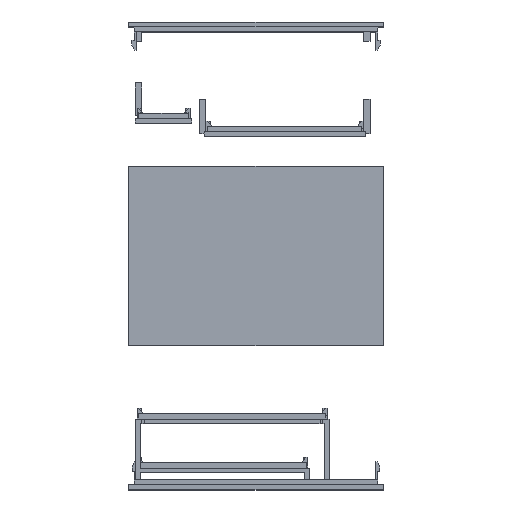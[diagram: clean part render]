
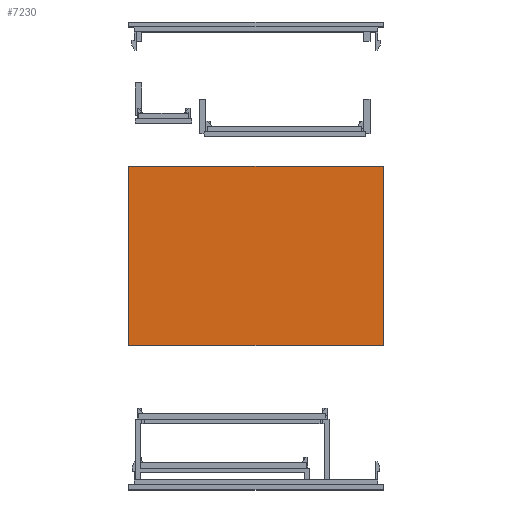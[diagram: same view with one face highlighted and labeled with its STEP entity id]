
A CAD part, top view. The second image highlights one B-rep face of the part: STEP entity #7230.
In plain terms, the highlighted planar face has unit normal (0, 0, 1).
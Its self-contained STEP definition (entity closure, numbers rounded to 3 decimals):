
#5539 = VERTEX_POINT('',#5540);
#5540 = CARTESIAN_POINT('',(0.,3.,100.));
#5547 = PLANE('',#5548);
#5548 = AXIS2_PLACEMENT_3D('',#5549,#5550,#5551);
#5549 = CARTESIAN_POINT('',(0.,3.,0.));
#5550 = DIRECTION('',(1.,0.,0.));
#5551 = DIRECTION('',(0.,0.,1.));
#5559 = PLANE('',#5560);
#5560 = AXIS2_PLACEMENT_3D('',#5561,#5562,#5563);
#5561 = CARTESIAN_POINT('',(0.,3.,0.));
#5562 = DIRECTION('',(0.,1.,0.));
#5563 = DIRECTION('',(0.,0.,1.));
#5600 = VERTEX_POINT('',#5601);
#5601 = CARTESIAN_POINT('',(0.,112.,100.));
#5615 = PLANE('',#5616);
#5616 = AXIS2_PLACEMENT_3D('',#5617,#5618,#5619);
#5617 = CARTESIAN_POINT('',(0.,112.,0.));
#5618 = DIRECTION('',(0.,1.,0.));
#5619 = DIRECTION('',(0.,0.,1.));
#5627 = EDGE_CURVE('',#5539,#5600,#5628,.T.);
#5628 = SURFACE_CURVE('',#5629,(#5633,#5640),.PCURVE_S1.);
#5629 = LINE('',#5630,#5631);
#5630 = CARTESIAN_POINT('',(0.,3.,100.));
#5631 = VECTOR('',#5632,1.);
#5632 = DIRECTION('',(0.,1.,0.));
#5633 = PCURVE('',#5547,#5634);
#5634 = DEFINITIONAL_REPRESENTATION('',(#5635),#5639);
#5635 = LINE('',#5636,#5637);
#5636 = CARTESIAN_POINT('',(100.,0.));
#5637 = VECTOR('',#5638,1.);
#5638 = DIRECTION('',(0.,-1.));
#5639 = ( GEOMETRIC_REPRESENTATION_CONTEXT(2) 
PARAMETRIC_REPRESENTATION_CONTEXT() REPRESENTATION_CONTEXT('2D SPACE',''
  ) );
#5640 = PCURVE('',#5641,#5646);
#5641 = PLANE('',#5642);
#5642 = AXIS2_PLACEMENT_3D('',#5643,#5644,#5645);
#5643 = CARTESIAN_POINT('',(0.,3.,100.));
#5644 = DIRECTION('',(0.,0.,1.));
#5645 = DIRECTION('',(1.,0.,0.));
#5646 = DEFINITIONAL_REPRESENTATION('',(#5647),#5651);
#5647 = LINE('',#5648,#5649);
#5648 = CARTESIAN_POINT('',(0.,0.));
#5649 = VECTOR('',#5650,1.);
#5650 = DIRECTION('',(0.,1.));
#5651 = ( GEOMETRIC_REPRESENTATION_CONTEXT(2) 
PARAMETRIC_REPRESENTATION_CONTEXT() REPRESENTATION_CONTEXT('2D SPACE',''
  ) );
#7068 = EDGE_CURVE('',#5539,#7069,#7071,.T.);
#7069 = VERTEX_POINT('',#7070);
#7070 = CARTESIAN_POINT('',(155.,3.,100.));
#7071 = SURFACE_CURVE('',#7072,(#7076,#7083),.PCURVE_S1.);
#7072 = LINE('',#7073,#7074);
#7073 = CARTESIAN_POINT('',(0.,3.,100.));
#7074 = VECTOR('',#7075,1.);
#7075 = DIRECTION('',(1.,0.,0.));
#7076 = PCURVE('',#5559,#7077);
#7077 = DEFINITIONAL_REPRESENTATION('',(#7078),#7082);
#7078 = LINE('',#7079,#7080);
#7079 = CARTESIAN_POINT('',(100.,0.));
#7080 = VECTOR('',#7081,1.);
#7081 = DIRECTION('',(0.,1.));
#7082 = ( GEOMETRIC_REPRESENTATION_CONTEXT(2) 
PARAMETRIC_REPRESENTATION_CONTEXT() REPRESENTATION_CONTEXT('2D SPACE',''
  ) );
#7083 = PCURVE('',#5641,#7084);
#7084 = DEFINITIONAL_REPRESENTATION('',(#7085),#7089);
#7085 = LINE('',#7086,#7087);
#7086 = CARTESIAN_POINT('',(0.,0.));
#7087 = VECTOR('',#7088,1.);
#7088 = DIRECTION('',(1.,0.));
#7089 = ( GEOMETRIC_REPRESENTATION_CONTEXT(2) 
PARAMETRIC_REPRESENTATION_CONTEXT() REPRESENTATION_CONTEXT('2D SPACE',''
  ) );
#7105 = PLANE('',#7106);
#7106 = AXIS2_PLACEMENT_3D('',#7107,#7108,#7109);
#7107 = CARTESIAN_POINT('',(155.,3.,0.));
#7108 = DIRECTION('',(1.,0.,0.));
#7109 = DIRECTION('',(0.,0.,1.));
#7230 = ADVANCED_FACE('',(#7231),#5641,.T.);
#7231 = FACE_BOUND('',#7232,.T.);
#7232 = EDGE_LOOP('',(#7233,#7234,#7235,#7258));
#7233 = ORIENTED_EDGE('',*,*,#5627,.F.);
#7234 = ORIENTED_EDGE('',*,*,#7068,.T.);
#7235 = ORIENTED_EDGE('',*,*,#7236,.T.);
#7236 = EDGE_CURVE('',#7069,#7237,#7239,.T.);
#7237 = VERTEX_POINT('',#7238);
#7238 = CARTESIAN_POINT('',(155.,112.,100.));
#7239 = SURFACE_CURVE('',#7240,(#7244,#7251),.PCURVE_S1.);
#7240 = LINE('',#7241,#7242);
#7241 = CARTESIAN_POINT('',(155.,3.,100.));
#7242 = VECTOR('',#7243,1.);
#7243 = DIRECTION('',(0.,1.,0.));
#7244 = PCURVE('',#5641,#7245);
#7245 = DEFINITIONAL_REPRESENTATION('',(#7246),#7250);
#7246 = LINE('',#7247,#7248);
#7247 = CARTESIAN_POINT('',(155.,0.));
#7248 = VECTOR('',#7249,1.);
#7249 = DIRECTION('',(0.,1.));
#7250 = ( GEOMETRIC_REPRESENTATION_CONTEXT(2) 
PARAMETRIC_REPRESENTATION_CONTEXT() REPRESENTATION_CONTEXT('2D SPACE',''
  ) );
#7251 = PCURVE('',#7105,#7252);
#7252 = DEFINITIONAL_REPRESENTATION('',(#7253),#7257);
#7253 = LINE('',#7254,#7255);
#7254 = CARTESIAN_POINT('',(100.,0.));
#7255 = VECTOR('',#7256,1.);
#7256 = DIRECTION('',(0.,-1.));
#7257 = ( GEOMETRIC_REPRESENTATION_CONTEXT(2) 
PARAMETRIC_REPRESENTATION_CONTEXT() REPRESENTATION_CONTEXT('2D SPACE',''
  ) );
#7258 = ORIENTED_EDGE('',*,*,#7259,.F.);
#7259 = EDGE_CURVE('',#5600,#7237,#7260,.T.);
#7260 = SURFACE_CURVE('',#7261,(#7265,#7272),.PCURVE_S1.);
#7261 = LINE('',#7262,#7263);
#7262 = CARTESIAN_POINT('',(0.,112.,100.));
#7263 = VECTOR('',#7264,1.);
#7264 = DIRECTION('',(1.,0.,0.));
#7265 = PCURVE('',#5641,#7266);
#7266 = DEFINITIONAL_REPRESENTATION('',(#7267),#7271);
#7267 = LINE('',#7268,#7269);
#7268 = CARTESIAN_POINT('',(0.,109.));
#7269 = VECTOR('',#7270,1.);
#7270 = DIRECTION('',(1.,0.));
#7271 = ( GEOMETRIC_REPRESENTATION_CONTEXT(2) 
PARAMETRIC_REPRESENTATION_CONTEXT() REPRESENTATION_CONTEXT('2D SPACE',''
  ) );
#7272 = PCURVE('',#5615,#7273);
#7273 = DEFINITIONAL_REPRESENTATION('',(#7274),#7278);
#7274 = LINE('',#7275,#7276);
#7275 = CARTESIAN_POINT('',(100.,0.));
#7276 = VECTOR('',#7277,1.);
#7277 = DIRECTION('',(0.,1.));
#7278 = ( GEOMETRIC_REPRESENTATION_CONTEXT(2) 
PARAMETRIC_REPRESENTATION_CONTEXT() REPRESENTATION_CONTEXT('2D SPACE',''
  ) );
